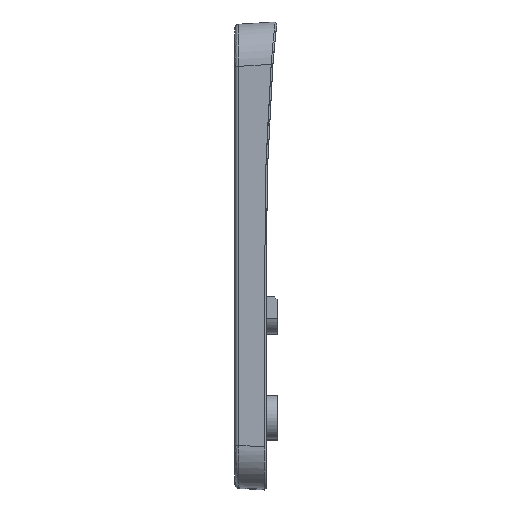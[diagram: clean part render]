
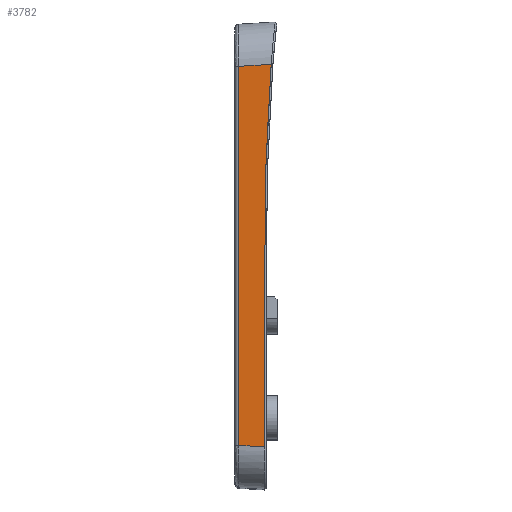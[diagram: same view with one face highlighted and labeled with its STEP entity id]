
A CAD part, top view. The second image highlights one B-rep face of the part: STEP entity #3782.
In plain terms, the highlighted planar face has unit normal (-0.061, 0, 0.998).
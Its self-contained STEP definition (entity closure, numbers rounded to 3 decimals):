
#1352=CARTESIAN_POINT('',(-38.949,31.461,53.346));
#1367=CARTESIAN_POINT('',(-32.829,31.835,53.72));
#1402=DIRECTION('',(0.,1.,0.));
#1403=VECTOR('',#1402,71.761);
#1404=CARTESIAN_POINT('',(-38.949,-40.3,
53.346));
#1405=LINE('',#1404,#1403);
#1406=DIRECTION('',(0.996,0.061,0.061));
#1407=VECTOR('',#1406,6.143);
#1408=CARTESIAN_POINT('',(-38.949,31.461,53.346));
#1409=LINE('',#1408,#1407);
#1410=CARTESIAN_POINT('',(-34.118,-16.5,
53.641));
#1411=CARTESIAN_POINT('',(-34.118,-11.888,
53.641));
#1412=CARTESIAN_POINT('',(-34.116,-2.386,
53.642));
#1413=CARTESIAN_POINT('',(-33.956,10.196,53.651));
#1414=CARTESIAN_POINT('',(-33.539,21.883,53.677));
#1415=CARTESIAN_POINT('',(-33.112,28.417,53.703));
#1416=CARTESIAN_POINT('',(-32.829,31.835,53.72));
#1418=DIRECTION('',(0.,1.,0.));
#1419=VECTOR('',#1418,24.095);
#1420=CARTESIAN_POINT('',(-34.118,-40.595,
53.641));
#1421=LINE('',#1420,#1419);
#1422=DIRECTION('',(0.996,-0.061,0.061));
#1423=VECTOR('',#1422,4.849);
#1424=CARTESIAN_POINT('',(-38.949,-40.3,
53.346));
#1425=LINE('',#1424,#1423);
#1449=CARTESIAN_POINT('',(-38.949,-40.3,
53.346));
#1464=CARTESIAN_POINT('',(-34.118,-40.595,
53.641));
#1666=VERTEX_POINT('',#1367);
#1688=VERTEX_POINT('',#1464);
#1690=CARTESIAN_POINT('',(-34.118,-16.5,
53.641));
#1691=VERTEX_POINT('',#1690);
#1696=VERTEX_POINT('',#1352);
#1715=VERTEX_POINT('',#1449);
#3766=CARTESIAN_POINT('',(-39.7,41.021,53.3));
#3767=DIRECTION('',(0.061,0.,-0.998));
#3768=DIRECTION('',(0.,-1.,0.));
#3769=AXIS2_PLACEMENT_3D('',#3766,#3767,#3768);
#3770=PLANE('',#3769);
#3772=ORIENTED_EDGE('',*,*,#3771,.T.);
#3773=ORIENTED_EDGE('',*,*,#3736,.T.);
#3775=ORIENTED_EDGE('',*,*,#3774,.F.);
#3777=ORIENTED_EDGE('',*,*,#3776,.F.);
#3779=ORIENTED_EDGE('',*,*,#3778,.F.);
#3780=EDGE_LOOP('',(#3772,#3773,#3775,#3777,#3779));
#3781=FACE_OUTER_BOUND('',#3780,.F.);
#1417=B_SPLINE_CURVE_WITH_KNOTS('',3,(#1410,#1411,#1412,#1413,#1414,#1415,
#1416),.UNSPECIFIED.,.F.,.F.,(4,1,1,1,4),(0.,0.25,
0.5,0.75,1.),.UNSPECIFIED.);
#3736=EDGE_CURVE('',#1696,#1666,#1409,.T.);
#3771=EDGE_CURVE('',#1715,#1696,#1405,.T.);
#3774=EDGE_CURVE('',#1691,#1666,#1417,.T.);
#3776=EDGE_CURVE('',#1688,#1691,#1421,.T.);
#3778=EDGE_CURVE('',#1715,#1688,#1425,.T.);
#3782=ADVANCED_FACE('',(#3781),#3770,.F.);
